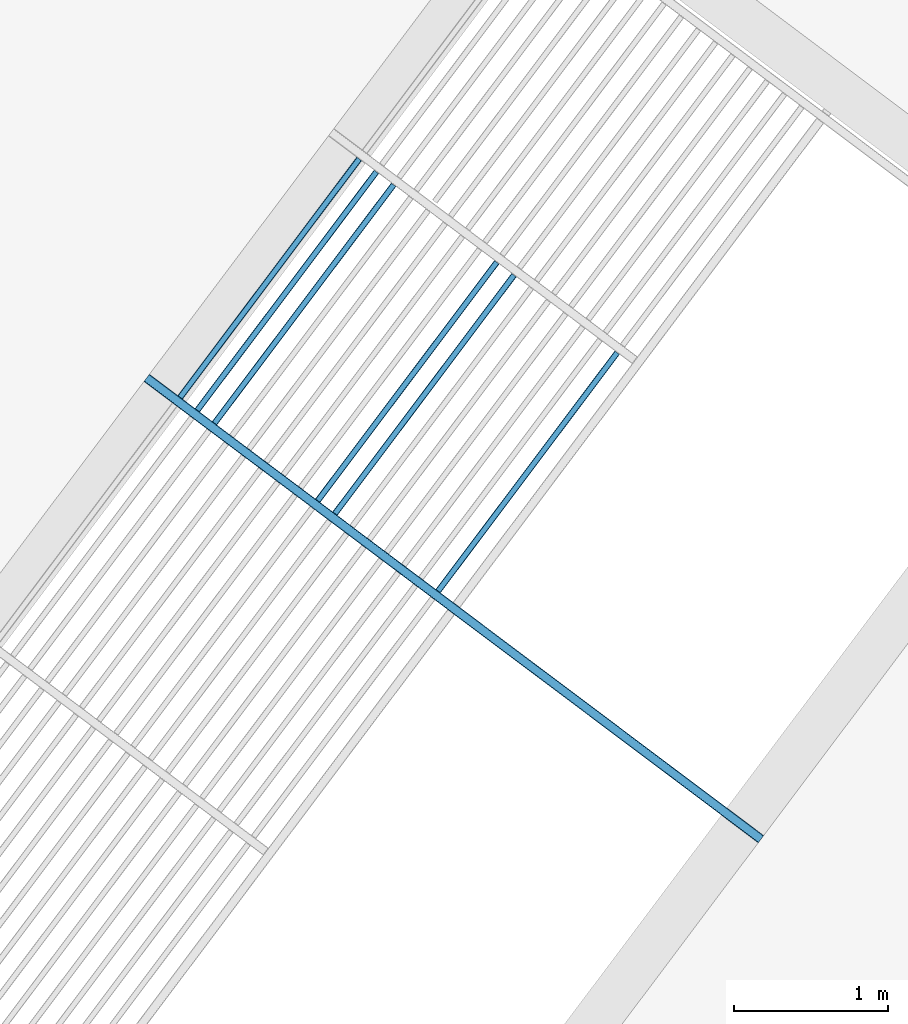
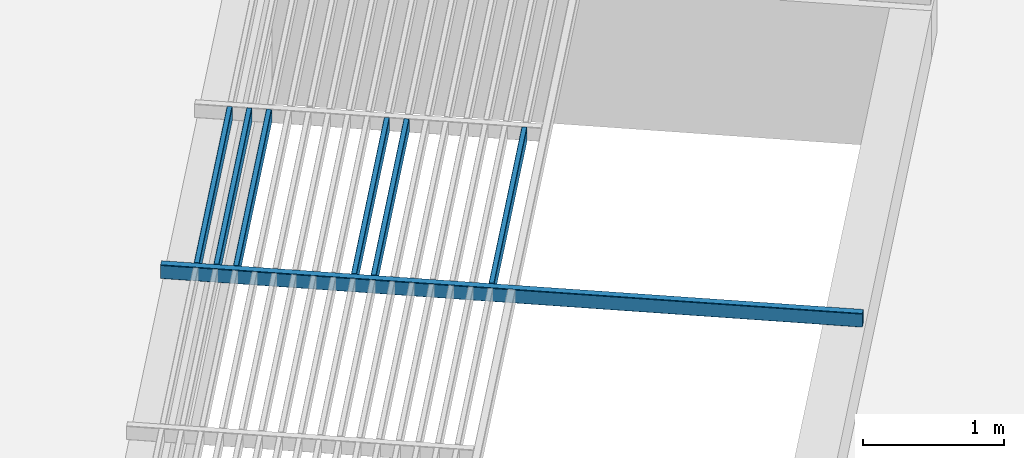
# One storey, part 33 of 95: 7 beams.
"""IFC2X3 building model written with IfcOpenShell, lengths in metres."""

import ifcopenshell
import ifcopenshell.guid

model = None  # the IFC model being written
_history = None  # IfcOwnerHistory: only IFC2X3 demands one
_inside = {}  # id of a spatial element -> (the spatial element, [elements in it])
_under = {}  # id of a project, library or spatial element -> (it, [spatial elements below it])
_declared = {}  # id of a project -> (the project, [libraries it declares])
_typed = {}  # id of a type object -> (the type object, [elements of that type])
_made_of = {}  # id of a material, layer set ... -> (it, [elements and type objects made of it])


def new_model(schema):
    """Start an empty IFC model of exactly this schema.

    Asked for "IFC4X3", IfcOpenShell would pick the latest addendum, in which some entities
    have other attributes; the version numbers below select the first issue.
    IFC2X3 requires an IfcOwnerHistory on every rooted entity: one is made here for all.
    """
    global model, _history
    if schema == "IFC4X3":
        model = ifcopenshell.file(schema_version=(4, 3, 0, 0))
    else:
        model = ifcopenshell.file(schema=schema)
    _inside.clear()
    _under.clear()
    _declared.clear()
    _typed.clear()
    _made_of.clear()
    _history = None
    if model.schema == "IFC2X3":
        org = make("IfcOrganization", Name="unknown")
        user = make(
            "IfcPersonAndOrganization",
            ThePerson=make("IfcPerson", FamilyName="unknown"),
            TheOrganization=org,
        )
        app = make(
            "IfcApplication",
            ApplicationDeveloper=org,
            Version="unknown",
            ApplicationFullName="unknown",
            ApplicationIdentifier="unknown",
        )
        _history = make(
            "IfcOwnerHistory",
            OwningUser=user,
            OwningApplication=app,
            ChangeAction="ADDED",
            CreationDate=0,
        )
    return model


def make(cls, **values):
    """One entity of the class cls with the attributes given. An attribute that is None is left unset."""
    return model.create_entity(
        cls, **{name: value for name, value in values.items() if value is not None}
    )


def entity(cls, *values):
    """Any entity or typed value of the class cls, its attributes in the order of the schema. None: left unset."""
    e = model.create_entity(cls)
    for i, value in enumerate(values):
        if value is not None:
            e[i] = value
    return e


def rooted(cls, **values):
    """An entity with a GlobalId (a new one), such as an element, a storey or a relation."""
    return make(cls, GlobalId=ifcopenshell.guid.new(), OwnerHistory=_history, **values)


def si_unit(unit_type, name, prefix=None):
    """IfcSIUnit, for example si_unit("LENGTHUNIT", "METRE", prefix="MILLI")."""
    return make("IfcSIUnit", UnitType=unit_type, Prefix=prefix, Name=name)


def converted_unit(unit_type, name, factor, base, dimensions=None, offset=None):
    """IfcConversionBasedUnit, such as the inch: factor (a typed value) times the base unit."""
    return make(
        "IfcConversionBasedUnit"
        if offset is None
        else "IfcConversionBasedUnitWithOffset",
        ConversionOffset=offset,
        Dimensions=None
        if dimensions is None
        else entity("IfcDimensionalExponents", *dimensions),
        UnitType=unit_type,
        Name=name,
        ConversionFactor=make(
            "IfcMeasureWithUnit", ValueComponent=factor, UnitComponent=base
        ),
    )


def derived_unit(unit_type, elements):
    """IfcDerivedUnit: a product of units, each with its exponent."""
    return make(
        "IfcDerivedUnit",
        Elements=[
            make("IfcDerivedUnitElement", Unit=unit, Exponent=power)
            for unit, power in elements
        ],
        UnitType=unit_type,
    )


def assignment(units):
    """IfcUnitAssignment: the units of a project."""
    return None if units is None else make("IfcUnitAssignment", Units=units)


def point(xyz):
    """IfcCartesianPoint."""
    return None if xyz is None else make("IfcCartesianPoint", Coordinates=xyz)


def direction(xyz):
    """IfcDirection."""
    return None if xyz is None else make("IfcDirection", DirectionRatios=xyz)


def frame(location, z_axis=None, x_axis=None):
    """IfcAxis2Placement3D, a coordinate frame: its origin and axes. An axis left out is left unset."""
    return make(
        "IfcAxis2Placement3D",
        Location=point(location),
        Axis=direction(z_axis),
        RefDirection=direction(x_axis),
    )


def frame_2d(location, x_axis=None):
    """IfcAxis2Placement2D, a coordinate frame in the plane: its origin and x axis."""
    return make(
        "IfcAxis2Placement2D", Location=point(location), RefDirection=direction(x_axis)
    )


def origin():
    """The frame at (0, 0, 0) with its axes left unset."""
    return frame((0.0, 0.0, 0.0))


def place(relative_to, where):
    """IfcLocalPlacement: puts the frame where relative to a parent placement (None: the world)."""
    return make(
        "IfcLocalPlacement", PlacementRelTo=relative_to, RelativePlacement=where
    )


def context(
    kind, dimensions, precision=None, world=None, true_north=None, identifier=None
):
    """IfcGeometricRepresentationContext, for example the 3D "Model" context."""
    return make(
        "IfcGeometricRepresentationContext",
        ContextIdentifier=identifier,
        ContextType=kind,
        CoordinateSpaceDimension=dimensions,
        Precision=precision,
        WorldCoordinateSystem=world,
        TrueNorth=true_north,
    )


def subcontext(parent, identifier, kind, view, scale=None):
    """IfcGeometricRepresentationSubContext, for example "Body" below "Model"."""
    return make(
        "IfcGeometricRepresentationSubContext",
        ContextIdentifier=identifier,
        ContextType=kind,
        ParentContext=parent,
        TargetScale=scale,
        TargetView=view,
    )


def project(units=None, contexts=None):
    """IfcProject with its units and contexts."""
    return rooted(
        "IfcProject",
        Name="project",
        RepresentationContexts=contexts,
        UnitsInContext=assignment(units),
    )


def spatial(cls, under=None, at=None, **own):
    """A site, building, storey or space (cls), placed at a placement, below another one or the project."""
    s = rooted(cls, ObjectPlacement=at, **own)
    if under is not None:
        _under.setdefault(under.id(), (under, []))[1].append(s)
    return s


def polyline(points):
    """IfcPolyline through the points."""
    return make("IfcPolyline", Points=[point(p) for p in points])


def circle_curve(where, radius):
    """IfcCircle in the frame where."""
    return make("IfcCircle", Position=where, Radius=radius)


def parameter(value):
    """IfcParameterValue: where a trimmed curve begins or ends, as a parameter of its basis curve."""
    return model.create_entity("IfcParameterValue", value)


def trimmed(basis, trim1, trim2, sense, master):
    """IfcTrimmedCurve: the piece of a basis curve between two trims."""
    return make(
        "IfcTrimmedCurve",
        BasisCurve=basis,
        Trim1=trim1,
        Trim2=trim2,
        SenseAgreement=sense,
        MasterRepresentation=master,
    )


def segment(curve, same_sense, transition):
    """IfcCompositeCurveSegment."""
    return make(
        "IfcCompositeCurveSegment",
        Transition=transition,
        SameSense=same_sense,
        ParentCurve=curve,
    )


def composite_curve(segments, self_intersect=None):
    """IfcCompositeCurve: segments joined end to end."""
    return make("IfcCompositeCurve", Segments=segments, SelfIntersect=self_intersect)


def outline(outer, holes=None, kind="AREA"):
    """IfcArbitraryClosedProfileDef: a profile drawn as a closed curve; with holes, ...WithVoids."""
    if holes is None:
        return make("IfcArbitraryClosedProfileDef", ProfileType=kind, OuterCurve=outer)
    return make(
        "IfcArbitraryProfileDefWithVoids",
        ProfileType=kind,
        OuterCurve=outer,
        InnerCurves=holes,
    )


def extrude(swept, where, along, depth):
    """IfcExtrudedAreaSolid: the profile swept, set in the frame where, extruded along a direction by depth."""
    return make(
        "IfcExtrudedAreaSolid",
        SweptArea=swept,
        Position=where,
        ExtrudedDirection=direction(along),
        Depth=depth,
    )


def shape(context_of_items, identifier, shape_type, items):
    """IfcShapeRepresentation: the items that make up one representation, for example the "Body"."""
    return make(
        "IfcShapeRepresentation",
        ContextOfItems=context_of_items,
        RepresentationIdentifier=identifier,
        RepresentationType=shape_type,
        Items=items,
    )


def material(Name=None, Category=None):
    """IfcMaterial."""
    return make("IfcMaterial", Name=Name, Category=Category)


def made_of(thing, what):
    """Note that an element or type object is made of a material, layer set ...; save() writes the relation."""
    if what is not None:
        _made_of.setdefault(what.id(), (what, []))[1].append(thing)
    return thing


def type_object(cls, material=None, **own):
    """A type object (cls), such as IfcWallType, which elements share."""
    return made_of(rooted(cls, **own), material)


def element(
    cls,
    number,
    at=None,
    inside=None,
    cuts=None,
    type_object=None,
    material=None,
    context=None,
    identifier="Body",
    shape_type=None,
    held_by="IfcProductDefinitionShape",
    body=None,
    shapes=None,
    **own,
):
    """One element of the class cls, such as IfcWall. Its Tag is "e" and its number.

    at: its placement. inside: the storey or other place that contains it. cuts: it is an
    opening in that element (IfcRelVoidsElement). A single representation is given by context,
    identifier, shape_type and body (its items); several are given by shapes. held_by: the class
    of the entity that holds the representations. save() writes the other relations.
    """
    e = rooted(cls, Tag="e%d" % number, ObjectPlacement=at, **own)
    if body is not None:
        shapes = [shape(context, identifier, shape_type, body)]
    if shapes is not None:
        e.Representation = make(held_by, Representations=shapes)
    if inside is not None:
        _inside.setdefault(inside.id(), (inside, []))[1].append(e)
    if cuts is not None:
        rooted(
            "IfcRelVoidsElement", RelatingBuildingElement=cuts, RelatedOpeningElement=e
        )
    if type_object is not None:
        _typed.setdefault(type_object.id(), (type_object, []))[1].append(e)
    return made_of(e, material)


def aggregate(whole, parts):
    """IfcRelAggregates: a whole, such as a stair, and the parts it consists of."""
    return rooted("IfcRelAggregates", RelatingObject=whole, RelatedObjects=parts)


def save(model, path):
    """Write the relations noted so far, then the file.

    IfcRelAggregates (storeys below a building ...), IfcRelContainedInSpatialStructure (elements
    in a storey), IfcRelDefinesByType, IfcRelAssociatesMaterial and IfcRelDeclares: one each for
    every whole, place, type object, material and project.
    """
    for whole, parts in _under.values():
        aggregate(whole, parts)
    for where, things in _inside.values():
        rooted(
            "IfcRelContainedInSpatialStructure",
            RelatedElements=things,
            RelatingStructure=where,
        )
    for kind, things in _typed.values():
        rooted("IfcRelDefinesByType", RelatedObjects=things, RelatingType=kind)
    for what, things in _made_of.values():
        rooted("IfcRelAssociatesMaterial", RelatedObjects=things, RelatingMaterial=what)
    for by, libraries in _declared.values():
        rooted("IfcRelDeclares", RelatingContext=by, RelatedDefinitions=libraries)
    model.write(path)


model = new_model("IFC2X3")

# Units and contexts
model_context = context("Model", 3, precision=1e-05, world=origin(), true_north=direction((6.123031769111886e-17, 1.0)))
body_context = subcontext(model_context, "Body", "Model", "MODEL_VIEW")
ifc_project = project(units=[si_unit("LENGTHUNIT", "METRE"), si_unit("AREAUNIT", "SQUARE_METRE"), si_unit("VOLUMEUNIT", "CUBIC_METRE"), converted_unit("PLANEANGLEUNIT", "DEGREE", entity("IfcRatioMeasure", 0.017453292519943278), si_unit("PLANEANGLEUNIT", "RADIAN"), dimensions=[0, 0, 0, 0, 0, 0, 0]), si_unit("MASSUNIT", "GRAM", prefix="KILO"), derived_unit("MASSDENSITYUNIT", [(si_unit("MASSUNIT", "GRAM", prefix="KILO"), 1), (si_unit("LENGTHUNIT", "METRE"), -3)]), derived_unit("IONCONCENTRATIONUNIT", [(si_unit("MASSUNIT", "GRAM", prefix="KILO"), 1), (si_unit("LENGTHUNIT", "METRE"), -3)]), derived_unit("MOMENTOFINERTIAUNIT", [(si_unit("LENGTHUNIT", "METRE"), 4)]), si_unit("TIMEUNIT", "SECOND"), si_unit("FREQUENCYUNIT", "HERTZ"), si_unit("THERMODYNAMICTEMPERATUREUNIT", "DEGREE_CELSIUS"), derived_unit("THERMALTRANSMITTANCEUNIT", [(si_unit("MASSUNIT", "GRAM", prefix="KILO"), 1), (si_unit("THERMODYNAMICTEMPERATUREUNIT", "KELVIN"), -1), (si_unit("TIMEUNIT", "SECOND"), -3)]), derived_unit("THERMALCONDUCTANCEUNIT", [(si_unit("MASSUNIT", "GRAM", prefix="KILO"), 1), (si_unit("THERMODYNAMICTEMPERATUREUNIT", "KELVIN"), -1), (si_unit("TIMEUNIT", "SECOND"), -3), (si_unit("LENGTHUNIT", "METRE"), 1)]), derived_unit("VOLUMETRICFLOWRATEUNIT", [(si_unit("LENGTHUNIT", "METRE"), 3), (si_unit("TIMEUNIT", "SECOND"), -1)]), derived_unit("MASSFLOWRATEUNIT", [(si_unit("MASSUNIT", "GRAM", prefix="KILO"), 1), (si_unit("TIMEUNIT", "SECOND"), -1)]), derived_unit("ROTATIONALFREQUENCYUNIT", [(si_unit("TIMEUNIT", "SECOND"), -1)]), si_unit("ELECTRICCURRENTUNIT", "AMPERE"), si_unit("ELECTRICVOLTAGEUNIT", "VOLT"), si_unit("POWERUNIT", "WATT"), si_unit("FORCEUNIT", "NEWTON", prefix="KILO"), si_unit("ILLUMINANCEUNIT", "LUX"), si_unit("LUMINOUSFLUXUNIT", "LUMEN"), si_unit("LUMINOUSINTENSITYUNIT", "CANDELA"), derived_unit("USERDEFINED", [(si_unit("MASSUNIT", "GRAM", prefix="KILO"), -1), (si_unit("LENGTHUNIT", "METRE"), -2), (si_unit("TIMEUNIT", "SECOND"), 3), (si_unit("LUMINOUSFLUXUNIT", "LUMEN"), 1)]), derived_unit("USERDEFINED", [(si_unit("MASSUNIT", "GRAM", prefix="KILO"), 1), (si_unit("TIMEUNIT", "SECOND"), -3), (si_unit("LENGTHUNIT", "METRE"), 3), (si_unit("ELECTRICCURRENTUNIT", "AMPERE"), -2)]), derived_unit("SOUNDPOWERUNIT", [(si_unit("MASSUNIT", "GRAM", prefix="KILO"), 1), (si_unit("TIMEUNIT", "SECOND"), -3), (si_unit("LENGTHUNIT", "METRE"), 2)]), derived_unit("SOUNDPRESSUREUNIT", [(si_unit("MASSUNIT", "GRAM", prefix="KILO"), 1), (si_unit("LENGTHUNIT", "METRE"), -1), (si_unit("TIMEUNIT", "SECOND"), -2)]), derived_unit("LINEARVELOCITYUNIT", [(si_unit("LENGTHUNIT", "METRE"), 1), (si_unit("TIMEUNIT", "SECOND"), -1)]), si_unit("PRESSUREUNIT", "PASCAL"), derived_unit("USERDEFINED", [(si_unit("MASSUNIT", "GRAM", prefix="KILO"), 1), (si_unit("LENGTHUNIT", "METRE"), -2), (si_unit("TIMEUNIT", "SECOND"), -2)]), derived_unit("LINEARFORCEUNIT", [(si_unit("MASSUNIT", "GRAM", prefix="KILO"), 1), (si_unit("TIMEUNIT", "SECOND"), -2)]), derived_unit("PLANARFORCEUNIT", [(si_unit("MASSUNIT", "GRAM", prefix="KILO"), 1), (si_unit("LENGTHUNIT", "METRE"), -1), (si_unit("TIMEUNIT", "SECOND"), -2)]), derived_unit("SPECIFICHEATCAPACITYUNIT", [(si_unit("THERMODYNAMICTEMPERATUREUNIT", "KELVIN"), -1), (si_unit("LENGTHUNIT", "METRE"), 2), (si_unit("TIMEUNIT", "SECOND"), -2)]), derived_unit("HEATINGVALUEUNIT", [(si_unit("LENGTHUNIT", "METRE"), 2), (si_unit("TIMEUNIT", "SECOND"), -2)]), derived_unit("VAPORPERMEABILITYUNIT", [(si_unit("LENGTHUNIT", "METRE"), -1), (si_unit("TIMEUNIT", "SECOND"), 1)]), derived_unit("DYNAMICVISCOSITYUNIT", [(si_unit("MASSUNIT", "GRAM", prefix="KILO"), 1), (si_unit("TIMEUNIT", "SECOND"), -1), (si_unit("LENGTHUNIT", "METRE"), -1)]), derived_unit("THERMALEXPANSIONCOEFFICIENTUNIT", [(si_unit("THERMODYNAMICTEMPERATUREUNIT", "KELVIN"), -1)]), derived_unit("MODULUSOFELASTICITYUNIT", [(si_unit("MASSUNIT", "GRAM", prefix="KILO"), 1), (si_unit("LENGTHUNIT", "METRE"), -1), (si_unit("TIMEUNIT", "SECOND"), -2)]), derived_unit("ISOTHERMALMOISTURECAPACITYUNIT", [(si_unit("LENGTHUNIT", "METRE"), 3), (si_unit("MASSUNIT", "GRAM", prefix="KILO"), -1)]), derived_unit("MOISTUREDIFFUSIVITYUNIT", [(si_unit("TIMEUNIT", "SECOND"), -1), (si_unit("LENGTHUNIT", "METRE"), 2)])], contexts=[model_context])

# Site, building, storey
site_placement = place(None, origin())
site = spatial("IfcSite", under=ifc_project, at=site_placement, Name="Default", CompositionType="ELEMENT")
building_placement = place(site_placement, frame((0.0, 0.0, 235.0), z_axis=(0.0, 0.0, 1.0), x_axis=(-0.7996477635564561, 0.6004693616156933, 0.0)))
building = spatial("IfcBuilding", under=site, at=building_placement, CompositionType="ELEMENT")
storey_placement = place(building_placement, frame((0.0, 0.0, 3.400000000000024)))
storey = spatial("IfcBuildingStorey", under=building, at=storey_placement, Name="PC- Coberta STR", CompositionType="ELEMENT", Elevation=3.400000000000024)

# Beams
ifc_material = material(Name="_Acer- STR")
beam_type_1 = type_object("IfcBeamType", Name="STR- V- Acer- RHS- Rectangular- T1:120x60RHS", PredefinedType="NOTDEFINED")
beam_1_placement = place(storey_placement, frame((23.645147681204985, -32.44678703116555, 0.49840472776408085), z_axis=(0.0, 0.0, 1.0), x_axis=(-1.0, 0.0, 0.0)))
element("IfcBeam", 1, at=beam_1_placement, inside=storey, type_object=beam_type_1, material=ifc_material, Name="STR- V- Acer- RHS- Rectangular- T1:120x60RHS", ObjectType="STR- V- Acer- RHS- Rectangular- T1:120x60RHS", context=body_context, shape_type="SweptSolid", body=[
    extrude(outline(composite_curve([segment(trimmed(circle_curve(frame_2d((-0.021999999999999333, -0.05200000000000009), x_axis=(1.0, 0.0)), 0.008), [parameter(180.0000000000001)], [parameter(269.99999999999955)], True, "PARAMETER"), True, "CONTINUOUS"), segment(polyline([(-0.022000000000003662, -0.05999999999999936), (0.021999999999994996, -0.05999999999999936)]), True, "CONTINUOUS"), segment(trimmed(circle_curve(frame_2d((0.021999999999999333, -0.05200000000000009), x_axis=(1.0, 0.0)), 0.008), [parameter(269.99999999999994)], [parameter(5.088887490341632e-14)], True, "PARAMETER"), True, "CONTINUOUS"), segment(polyline([(0.029999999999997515, -0.05199999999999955), (0.029999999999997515, 0.05200000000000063)]), True, "CONTINUOUS"), segment(trimmed(circle_curve(frame_2d((0.021999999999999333, 0.05200000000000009), x_axis=(1.0, 0.0)), 0.008), [parameter(359.99999999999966)], [parameter(89.99999999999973)], True, "PARAMETER"), True, "CONTINUOUS"), segment(polyline([(0.021999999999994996, 0.060000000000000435), (-0.022000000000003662, 0.060000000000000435)]), True, "CONTINUOUS"), segment(trimmed(circle_curve(frame_2d((-0.021999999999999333, 0.05200000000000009), x_axis=(1.0, 0.0)), 0.008), [parameter(90.00000000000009)], [parameter(180.00000000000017)], True, "PARAMETER"), True, "CONTINUOUS"), segment(polyline([(-0.030000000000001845, 0.05200000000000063), (-0.030000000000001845, -0.05199999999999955)]), True, "CONTINUOUS")], self_intersect=False), holes=[composite_curve([segment(polyline([(0.021999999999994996, -0.05600000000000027), (-0.022000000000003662, -0.05600000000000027)]), True, "CONTINUOUS"), segment(trimmed(circle_curve(frame_2d((-0.021999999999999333, -0.05200000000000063), x_axis=(1.0, 0.0)), 0.004), [parameter(179.99999999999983)], [parameter(269.9999999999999)], True, "PARAMETER"), False, "CONTINUOUS"), segment(polyline([(-0.026000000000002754, -0.05200000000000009), (-0.026000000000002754, 0.05199999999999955)]), True, "CONTINUOUS"), segment(trimmed(circle_curve(frame_2d((-0.021999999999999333, 0.051999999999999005), x_axis=(1.0, 0.0)), 0.004), [parameter(90.00000000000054)], [parameter(180.00000000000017)], True, "PARAMETER"), False, "CONTINUOUS"), segment(polyline([(-0.022000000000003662, 0.05599999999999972), (0.021999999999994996, 0.05599999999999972)]), True, "CONTINUOUS"), segment(trimmed(circle_curve(frame_2d((0.021999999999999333, 0.051999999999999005), x_axis=(1.0, 0.0)), 0.004), [parameter(0.0)], [parameter(90.00000000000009)], True, "PARAMETER"), False, "CONTINUOUS"), segment(polyline([(0.02599999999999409, 0.05199999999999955), (0.02599999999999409, -0.05200000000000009)]), True, "CONTINUOUS"), segment(trimmed(circle_curve(frame_2d((0.021999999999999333, -0.05200000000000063), x_axis=(1.0, 0.0)), 0.004), [parameter(270.00000000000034)], [parameter(3.5622212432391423e-13)], True, "PARAMETER"), False, "CONTINUOUS")], self_intersect=False)]), frame((-5.0, -0.0315952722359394, 0.061595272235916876), z_axis=(1.0, 0.0, 0.0), x_axis=(0.0, -1.0, 0.0)), (0.0, 0.0, 1.0), 5.000000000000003),
])
beam_type_2 = type_object("IfcBeamType", Name="STR- V- Acer- RHS- Rectangular- T1:120x40RHS -", PredefinedType="NOTDEFINED")
beam_2_placement = place(storey_placement, frame((28.373552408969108, -34.38519175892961, 0.49840472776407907), z_axis=(0.0, 0.0, 1.0), x_axis=(0.0, -1.0, 0.0)))
element("IfcBeam", 2, at=beam_2_placement, inside=storey, type_object=beam_type_2, material=ifc_material, Name="STR- V- Acer- RHS- Rectangular- T1:120x40RHS -", ObjectType="STR- V- Acer- RHS- Rectangular- T1:120x40RHS -", context=body_context, shape_type="SweptSolid", body=[
    extrude(outline(composite_curve([segment(trimmed(circle_curve(frame_2d((-0.013999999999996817, -0.05400000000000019), x_axis=(1.0, 0.0)), 0.006), [parameter(180.0000000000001)], [parameter(269.99999999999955)], True, "PARAMETER"), True, "CONTINUOUS"), segment(polyline([(-0.014000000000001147, -0.06000000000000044), (0.01400000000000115, -0.06000000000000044)]), True, "CONTINUOUS"), segment(trimmed(circle_curve(frame_2d((0.01400000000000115, -0.05400000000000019), x_axis=(1.0, 0.0)), 0.006), [parameter(269.99999999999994)], [parameter(1.0177774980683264e-13)], True, "PARAMETER"), True, "CONTINUOUS"), segment(polyline([(0.019999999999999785, -0.05400000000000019), (0.019999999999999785, 0.05399999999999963)]), True, "CONTINUOUS"), segment(trimmed(circle_curve(frame_2d((0.01400000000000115, 0.05399999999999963), x_axis=(1.0, 0.0)), 0.006), [parameter(359.9999999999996)], [parameter(89.99999999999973)], True, "PARAMETER"), True, "CONTINUOUS"), segment(polyline([(0.01400000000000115, 0.05999999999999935), (-0.014000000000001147, 0.05999999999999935)]), True, "CONTINUOUS"), segment(trimmed(circle_curve(frame_2d((-0.013999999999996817, 0.05399999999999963), x_axis=(1.0, 0.0)), 0.006), [parameter(90.00000000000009)], [parameter(180.00000000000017)], True, "PARAMETER"), True, "CONTINUOUS"), segment(polyline([(-0.019999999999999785, 0.05399999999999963), (-0.019999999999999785, -0.05400000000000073)]), True, "CONTINUOUS")], self_intersect=False), holes=[composite_curve([segment(polyline([(0.01400000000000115, -0.05700000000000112), (-0.014000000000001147, -0.05700000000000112)]), True, "CONTINUOUS"), segment(trimmed(circle_curve(frame_2d((-0.013999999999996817, -0.05400000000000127), x_axis=(1.0, 0.0)), 0.003), [parameter(179.99999999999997)], [parameter(269.9999999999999)], True, "PARAMETER"), False, "CONTINUOUS"), segment(polyline([(-0.01700000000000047, -0.05400000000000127), (-0.01700000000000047, 0.05399999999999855)]), True, "CONTINUOUS"), segment(trimmed(circle_curve(frame_2d((-0.013999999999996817, 0.05399999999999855), x_axis=(1.0, 0.0)), 0.003), [parameter(90.00000000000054)], [parameter(180.0000000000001)], True, "PARAMETER"), False, "CONTINUOUS"), segment(polyline([(-0.014000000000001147, 0.05699999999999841), (0.01400000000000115, 0.05699999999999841)]), True, "CONTINUOUS"), segment(trimmed(circle_curve(frame_2d((0.01400000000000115, 0.05399999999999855), x_axis=(1.0, 0.0)), 0.003), [parameter(0.0)], [parameter(90.00000000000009)], True, "PARAMETER"), False, "CONTINUOUS"), segment(polyline([(0.017000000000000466, 0.05399999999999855), (0.017000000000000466, -0.05400000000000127)]), True, "CONTINUOUS"), segment(trimmed(circle_curve(frame_2d((0.01400000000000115, -0.05400000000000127), x_axis=(1.0, 0.0)), 0.003), [parameter(270.00000000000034)], [parameter(3.053332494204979e-13)], True, "PARAMETER"), False, "CONTINUOUS")], self_intersect=False)]), frame((-1.9399999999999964, 0.021595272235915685, 0.06159527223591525), z_axis=(1.0, 0.0, 0.0), x_axis=(0.0, -1.0, 0.0)), (0.0, 0.0, 1.0), 1.9399999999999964),
])
beam_3_placement = place(storey_placement, frame((28.233552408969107, -34.38519175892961, 0.49840472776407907), z_axis=(0.0, 0.0, 1.0), x_axis=(0.0, -1.0, 0.0)))
element("IfcBeam", 3, at=beam_3_placement, inside=storey, type_object=beam_type_2, material=ifc_material, Name="STR- V- Acer- RHS- Rectangular- T1:120x40RHS -", ObjectType="STR- V- Acer- RHS- Rectangular- T1:120x40RHS -", context=body_context, shape_type="SweptSolid", body=[
    extrude(outline(composite_curve([segment(trimmed(circle_curve(frame_2d((-0.013999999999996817, -0.05400000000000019), x_axis=(1.0, 0.0)), 0.006), [parameter(180.0000000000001)], [parameter(269.99999999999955)], True, "PARAMETER"), True, "CONTINUOUS"), segment(polyline([(-0.014000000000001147, -0.06000000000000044), (0.01400000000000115, -0.06000000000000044)]), True, "CONTINUOUS"), segment(trimmed(circle_curve(frame_2d((0.01400000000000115, -0.05400000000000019), x_axis=(1.0, 0.0)), 0.006), [parameter(269.99999999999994)], [parameter(1.0177774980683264e-13)], True, "PARAMETER"), True, "CONTINUOUS"), segment(polyline([(0.019999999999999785, -0.05400000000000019), (0.019999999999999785, 0.05399999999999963)]), True, "CONTINUOUS"), segment(trimmed(circle_curve(frame_2d((0.01400000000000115, 0.05399999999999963), x_axis=(1.0, 0.0)), 0.006), [parameter(359.9999999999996)], [parameter(89.99999999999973)], True, "PARAMETER"), True, "CONTINUOUS"), segment(polyline([(0.01400000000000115, 0.05999999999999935), (-0.014000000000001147, 0.05999999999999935)]), True, "CONTINUOUS"), segment(trimmed(circle_curve(frame_2d((-0.013999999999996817, 0.05399999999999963), x_axis=(1.0, 0.0)), 0.006), [parameter(90.00000000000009)], [parameter(180.00000000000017)], True, "PARAMETER"), True, "CONTINUOUS"), segment(polyline([(-0.019999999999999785, 0.05399999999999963), (-0.019999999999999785, -0.05400000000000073)]), True, "CONTINUOUS")], self_intersect=False), holes=[composite_curve([segment(polyline([(0.01400000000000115, -0.05700000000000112), (-0.014000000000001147, -0.05700000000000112)]), True, "CONTINUOUS"), segment(trimmed(circle_curve(frame_2d((-0.013999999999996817, -0.05400000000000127), x_axis=(1.0, 0.0)), 0.003), [parameter(179.99999999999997)], [parameter(269.9999999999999)], True, "PARAMETER"), False, "CONTINUOUS"), segment(polyline([(-0.01700000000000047, -0.05400000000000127), (-0.01700000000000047, 0.05399999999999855)]), True, "CONTINUOUS"), segment(trimmed(circle_curve(frame_2d((-0.013999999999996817, 0.05399999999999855), x_axis=(1.0, 0.0)), 0.003), [parameter(90.00000000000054)], [parameter(180.0000000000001)], True, "PARAMETER"), False, "CONTINUOUS"), segment(polyline([(-0.014000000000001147, 0.05699999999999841), (0.01400000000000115, 0.05699999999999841)]), True, "CONTINUOUS"), segment(trimmed(circle_curve(frame_2d((0.01400000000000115, 0.05399999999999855), x_axis=(1.0, 0.0)), 0.003), [parameter(0.0)], [parameter(90.00000000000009)], True, "PARAMETER"), False, "CONTINUOUS"), segment(polyline([(0.017000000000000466, 0.05399999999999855), (0.017000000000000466, -0.05400000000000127)]), True, "CONTINUOUS"), segment(trimmed(circle_curve(frame_2d((0.01400000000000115, -0.05400000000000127), x_axis=(1.0, 0.0)), 0.003), [parameter(270.00000000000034)], [parameter(3.053332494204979e-13)], True, "PARAMETER"), False, "CONTINUOUS")], self_intersect=False)]), frame((-1.9399999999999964, 0.021595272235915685, 0.06159527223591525), z_axis=(1.0, 0.0, 0.0), x_axis=(0.0, -1.0, 0.0)), (0.0, 0.0, 1.0), 1.9399999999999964),
])
beam_4_placement = place(storey_placement, frame((28.09355240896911, -34.38519175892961, 0.49840472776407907), z_axis=(0.0, 0.0, 1.0), x_axis=(0.0, -1.0, 0.0)))
element("IfcBeam", 4, at=beam_4_placement, inside=storey, type_object=beam_type_2, material=ifc_material, Name="STR- V- Acer- RHS- Rectangular- T1:120x40RHS -", ObjectType="STR- V- Acer- RHS- Rectangular- T1:120x40RHS -", context=body_context, shape_type="SweptSolid", body=[
    extrude(outline(composite_curve([segment(trimmed(circle_curve(frame_2d((-0.01400000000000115, -0.05400000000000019), x_axis=(1.0, 0.0)), 0.006), [parameter(180.0000000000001)], [parameter(269.99999999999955)], True, "PARAMETER"), True, "CONTINUOUS"), segment(polyline([(-0.01400000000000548, -0.06000000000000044), (0.013999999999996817, -0.06000000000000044)]), True, "CONTINUOUS"), segment(trimmed(circle_curve(frame_2d((0.013999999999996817, -0.05400000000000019), x_axis=(1.0, 0.0)), 0.006), [parameter(269.99999999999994)], [parameter(1.0177774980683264e-13)], True, "PARAMETER"), True, "CONTINUOUS"), segment(polyline([(0.019999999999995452, -0.05400000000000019), (0.019999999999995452, 0.05399999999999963)]), True, "CONTINUOUS"), segment(trimmed(circle_curve(frame_2d((0.013999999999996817, 0.05399999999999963), x_axis=(1.0, 0.0)), 0.006), [parameter(359.9999999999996)], [parameter(89.99999999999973)], True, "PARAMETER"), True, "CONTINUOUS"), segment(polyline([(0.013999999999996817, 0.05999999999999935), (-0.01400000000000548, 0.05999999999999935)]), True, "CONTINUOUS"), segment(trimmed(circle_curve(frame_2d((-0.01400000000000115, 0.05399999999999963), x_axis=(1.0, 0.0)), 0.006), [parameter(90.00000000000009)], [parameter(180.00000000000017)], True, "PARAMETER"), True, "CONTINUOUS"), segment(polyline([(-0.02000000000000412, 0.05399999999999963), (-0.02000000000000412, -0.05400000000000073)]), True, "CONTINUOUS")], self_intersect=False), holes=[composite_curve([segment(polyline([(0.013999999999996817, -0.05700000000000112), (-0.01400000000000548, -0.05700000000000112)]), True, "CONTINUOUS"), segment(trimmed(circle_curve(frame_2d((-0.01400000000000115, -0.05400000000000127), x_axis=(1.0, 0.0)), 0.003), [parameter(179.99999999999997)], [parameter(269.9999999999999)], True, "PARAMETER"), False, "CONTINUOUS"), segment(polyline([(-0.017000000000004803, -0.05400000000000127), (-0.017000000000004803, 0.05399999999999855)]), True, "CONTINUOUS"), segment(trimmed(circle_curve(frame_2d((-0.01400000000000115, 0.05399999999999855), x_axis=(1.0, 0.0)), 0.003), [parameter(90.00000000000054)], [parameter(180.0000000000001)], True, "PARAMETER"), False, "CONTINUOUS"), segment(polyline([(-0.01400000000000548, 0.05699999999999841), (0.013999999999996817, 0.05699999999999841)]), True, "CONTINUOUS"), segment(trimmed(circle_curve(frame_2d((0.013999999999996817, 0.05399999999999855), x_axis=(1.0, 0.0)), 0.003), [parameter(0.0)], [parameter(90.00000000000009)], True, "PARAMETER"), False, "CONTINUOUS"), segment(polyline([(0.016999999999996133, 0.05399999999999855), (0.016999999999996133, -0.05400000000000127)]), True, "CONTINUOUS"), segment(trimmed(circle_curve(frame_2d((0.013999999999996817, -0.05400000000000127), x_axis=(1.0, 0.0)), 0.003), [parameter(270.00000000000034)], [parameter(3.053332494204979e-13)], True, "PARAMETER"), False, "CONTINUOUS")], self_intersect=False)]), frame((-1.9399999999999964, 0.02159527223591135, 0.06159527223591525), z_axis=(1.0, 0.0, 0.0), x_axis=(0.0, -1.0, 0.0)), (0.0, 0.0, 1.0), 1.9399999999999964),
])
beam_5_placement = place(storey_placement, frame((27.25355240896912, -34.38519175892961, 0.49840472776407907), z_axis=(0.0, 0.0, 1.0), x_axis=(0.0, -1.0, 0.0)))
element("IfcBeam", 5, at=beam_5_placement, inside=storey, type_object=beam_type_2, material=ifc_material, Name="STR- V- Acer- RHS- Rectangular- T1:120x40RHS -", ObjectType="STR- V- Acer- RHS- Rectangular- T1:120x40RHS -", context=body_context, shape_type="SweptSolid", body=[
    extrude(outline(composite_curve([segment(trimmed(circle_curve(frame_2d((-0.013999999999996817, -0.05400000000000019), x_axis=(1.0, 0.0)), 0.006), [parameter(180.0000000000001)], [parameter(269.99999999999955)], True, "PARAMETER"), True, "CONTINUOUS"), segment(polyline([(-0.014000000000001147, -0.06000000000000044), (0.01400000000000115, -0.06000000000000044)]), True, "CONTINUOUS"), segment(trimmed(circle_curve(frame_2d((0.01400000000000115, -0.05400000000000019), x_axis=(1.0, 0.0)), 0.006), [parameter(269.99999999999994)], [parameter(1.0177774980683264e-13)], True, "PARAMETER"), True, "CONTINUOUS"), segment(polyline([(0.019999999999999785, -0.05400000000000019), (0.019999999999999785, 0.05399999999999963)]), True, "CONTINUOUS"), segment(trimmed(circle_curve(frame_2d((0.01400000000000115, 0.05399999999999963), x_axis=(1.0, 0.0)), 0.006), [parameter(359.9999999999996)], [parameter(89.99999999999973)], True, "PARAMETER"), True, "CONTINUOUS"), segment(polyline([(0.01400000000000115, 0.05999999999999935), (-0.014000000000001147, 0.05999999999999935)]), True, "CONTINUOUS"), segment(trimmed(circle_curve(frame_2d((-0.013999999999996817, 0.05399999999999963), x_axis=(1.0, 0.0)), 0.006), [parameter(90.00000000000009)], [parameter(180.00000000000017)], True, "PARAMETER"), True, "CONTINUOUS"), segment(polyline([(-0.019999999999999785, 0.05399999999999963), (-0.019999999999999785, -0.05400000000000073)]), True, "CONTINUOUS")], self_intersect=False), holes=[composite_curve([segment(polyline([(0.01400000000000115, -0.05700000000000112), (-0.014000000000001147, -0.05700000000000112)]), True, "CONTINUOUS"), segment(trimmed(circle_curve(frame_2d((-0.013999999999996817, -0.05400000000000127), x_axis=(1.0, 0.0)), 0.003), [parameter(179.99999999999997)], [parameter(269.9999999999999)], True, "PARAMETER"), False, "CONTINUOUS"), segment(polyline([(-0.01700000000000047, -0.05400000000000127), (-0.01700000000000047, 0.05399999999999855)]), True, "CONTINUOUS"), segment(trimmed(circle_curve(frame_2d((-0.013999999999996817, 0.05399999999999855), x_axis=(1.0, 0.0)), 0.003), [parameter(90.00000000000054)], [parameter(180.0000000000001)], True, "PARAMETER"), False, "CONTINUOUS"), segment(polyline([(-0.014000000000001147, 0.05699999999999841), (0.01400000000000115, 0.05699999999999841)]), True, "CONTINUOUS"), segment(trimmed(circle_curve(frame_2d((0.01400000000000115, 0.05399999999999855), x_axis=(1.0, 0.0)), 0.003), [parameter(0.0)], [parameter(90.00000000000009)], True, "PARAMETER"), False, "CONTINUOUS"), segment(polyline([(0.017000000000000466, 0.05399999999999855), (0.017000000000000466, -0.05400000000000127)]), True, "CONTINUOUS"), segment(trimmed(circle_curve(frame_2d((0.01400000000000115, -0.05400000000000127), x_axis=(1.0, 0.0)), 0.003), [parameter(270.00000000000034)], [parameter(3.053332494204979e-13)], True, "PARAMETER"), False, "CONTINUOUS")], self_intersect=False)]), frame((-1.9399999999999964, 0.021595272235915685, 0.06159527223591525), z_axis=(1.0, 0.0, 0.0), x_axis=(0.0, -1.0, 0.0)), (0.0, 0.0, 1.0), 1.9399999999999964),
])
beam_6_placement = place(storey_placement, frame((27.11355240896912, -34.38519175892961, 0.49840472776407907), z_axis=(0.0, 0.0, 1.0), x_axis=(0.0, -1.0, 0.0)))
element("IfcBeam", 6, at=beam_6_placement, inside=storey, type_object=beam_type_2, material=ifc_material, Name="STR- V- Acer- RHS- Rectangular- T1:120x40RHS -", ObjectType="STR- V- Acer- RHS- Rectangular- T1:120x40RHS -", context=body_context, shape_type="SweptSolid", body=[
    extrude(outline(composite_curve([segment(trimmed(circle_curve(frame_2d((-0.013999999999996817, -0.05400000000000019), x_axis=(1.0, 0.0)), 0.006), [parameter(180.0000000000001)], [parameter(269.99999999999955)], True, "PARAMETER"), True, "CONTINUOUS"), segment(polyline([(-0.014000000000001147, -0.06000000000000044), (0.01400000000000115, -0.06000000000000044)]), True, "CONTINUOUS"), segment(trimmed(circle_curve(frame_2d((0.01400000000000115, -0.05400000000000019), x_axis=(1.0, 0.0)), 0.006), [parameter(269.99999999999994)], [parameter(1.0177774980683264e-13)], True, "PARAMETER"), True, "CONTINUOUS"), segment(polyline([(0.019999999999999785, -0.05400000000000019), (0.019999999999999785, 0.05399999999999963)]), True, "CONTINUOUS"), segment(trimmed(circle_curve(frame_2d((0.01400000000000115, 0.05399999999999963), x_axis=(1.0, 0.0)), 0.006), [parameter(359.9999999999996)], [parameter(89.99999999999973)], True, "PARAMETER"), True, "CONTINUOUS"), segment(polyline([(0.01400000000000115, 0.05999999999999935), (-0.014000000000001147, 0.05999999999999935)]), True, "CONTINUOUS"), segment(trimmed(circle_curve(frame_2d((-0.013999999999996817, 0.05399999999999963), x_axis=(1.0, 0.0)), 0.006), [parameter(90.00000000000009)], [parameter(180.00000000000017)], True, "PARAMETER"), True, "CONTINUOUS"), segment(polyline([(-0.019999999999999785, 0.05399999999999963), (-0.019999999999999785, -0.05400000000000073)]), True, "CONTINUOUS")], self_intersect=False), holes=[composite_curve([segment(polyline([(0.01400000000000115, -0.05700000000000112), (-0.014000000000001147, -0.05700000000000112)]), True, "CONTINUOUS"), segment(trimmed(circle_curve(frame_2d((-0.013999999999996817, -0.05400000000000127), x_axis=(1.0, 0.0)), 0.003), [parameter(179.99999999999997)], [parameter(269.9999999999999)], True, "PARAMETER"), False, "CONTINUOUS"), segment(polyline([(-0.01700000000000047, -0.05400000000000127), (-0.01700000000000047, 0.05399999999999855)]), True, "CONTINUOUS"), segment(trimmed(circle_curve(frame_2d((-0.013999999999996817, 0.05399999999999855), x_axis=(1.0, 0.0)), 0.003), [parameter(90.00000000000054)], [parameter(180.0000000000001)], True, "PARAMETER"), False, "CONTINUOUS"), segment(polyline([(-0.014000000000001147, 0.05699999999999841), (0.01400000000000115, 0.05699999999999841)]), True, "CONTINUOUS"), segment(trimmed(circle_curve(frame_2d((0.01400000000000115, 0.05399999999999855), x_axis=(1.0, 0.0)), 0.003), [parameter(0.0)], [parameter(90.00000000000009)], True, "PARAMETER"), False, "CONTINUOUS"), segment(polyline([(0.017000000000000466, 0.05399999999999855), (0.017000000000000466, -0.05400000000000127)]), True, "CONTINUOUS"), segment(trimmed(circle_curve(frame_2d((0.01400000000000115, -0.05400000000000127), x_axis=(1.0, 0.0)), 0.003), [parameter(270.00000000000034)], [parameter(3.053332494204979e-13)], True, "PARAMETER"), False, "CONTINUOUS")], self_intersect=False)]), frame((-1.9399999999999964, 0.021595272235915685, 0.06159527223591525), z_axis=(1.0, 0.0, 0.0), x_axis=(0.0, -1.0, 0.0)), (0.0, 0.0, 1.0), 1.9399999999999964),
])
beam_7_placement = place(storey_placement, frame((26.27355240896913, -34.38519175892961, 0.49840472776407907), z_axis=(0.0, 0.0, 1.0), x_axis=(0.0, -1.0, 0.0)))
element("IfcBeam", 7, at=beam_7_placement, inside=storey, type_object=beam_type_2, material=ifc_material, Name="STR- V- Acer- RHS- Rectangular- T1:120x40RHS -", ObjectType="STR- V- Acer- RHS- Rectangular- T1:120x40RHS -", context=body_context, shape_type="SweptSolid", body=[
    extrude(outline(composite_curve([segment(trimmed(circle_curve(frame_2d((-0.013999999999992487, -0.05400000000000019), x_axis=(1.0, 0.0)), 0.006), [parameter(180.0000000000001)], [parameter(269.99999999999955)], True, "PARAMETER"), True, "CONTINUOUS"), segment(polyline([(-0.013999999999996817, -0.06000000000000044), (0.01400000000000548, -0.06000000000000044)]), True, "CONTINUOUS"), segment(trimmed(circle_curve(frame_2d((0.01400000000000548, -0.05400000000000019), x_axis=(1.0, 0.0)), 0.006), [parameter(269.99999999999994)], [parameter(1.0177774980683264e-13)], True, "PARAMETER"), True, "CONTINUOUS"), segment(polyline([(0.020000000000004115, -0.05400000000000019), (0.020000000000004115, 0.05399999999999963)]), True, "CONTINUOUS"), segment(trimmed(circle_curve(frame_2d((0.01400000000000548, 0.05399999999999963), x_axis=(1.0, 0.0)), 0.006), [parameter(359.9999999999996)], [parameter(89.99999999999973)], True, "PARAMETER"), True, "CONTINUOUS"), segment(polyline([(0.01400000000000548, 0.05999999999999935), (-0.013999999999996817, 0.05999999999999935)]), True, "CONTINUOUS"), segment(trimmed(circle_curve(frame_2d((-0.013999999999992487, 0.05399999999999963), x_axis=(1.0, 0.0)), 0.006), [parameter(90.00000000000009)], [parameter(180.00000000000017)], True, "PARAMETER"), True, "CONTINUOUS"), segment(polyline([(-0.019999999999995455, 0.05399999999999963), (-0.019999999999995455, -0.05400000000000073)]), True, "CONTINUOUS")], self_intersect=False), holes=[composite_curve([segment(polyline([(0.01400000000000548, -0.05700000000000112), (-0.013999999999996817, -0.05700000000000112)]), True, "CONTINUOUS"), segment(trimmed(circle_curve(frame_2d((-0.013999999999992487, -0.05400000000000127), x_axis=(1.0, 0.0)), 0.003), [parameter(179.99999999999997)], [parameter(269.9999999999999)], True, "PARAMETER"), False, "CONTINUOUS"), segment(polyline([(-0.01699999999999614, -0.05400000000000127), (-0.01699999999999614, 0.05399999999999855)]), True, "CONTINUOUS"), segment(trimmed(circle_curve(frame_2d((-0.013999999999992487, 0.05399999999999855), x_axis=(1.0, 0.0)), 0.003), [parameter(90.00000000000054)], [parameter(180.0000000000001)], True, "PARAMETER"), False, "CONTINUOUS"), segment(polyline([(-0.013999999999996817, 0.05699999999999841), (0.01400000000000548, 0.05699999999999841)]), True, "CONTINUOUS"), segment(trimmed(circle_curve(frame_2d((0.01400000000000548, 0.05399999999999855), x_axis=(1.0, 0.0)), 0.003), [parameter(0.0)], [parameter(90.00000000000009)], True, "PARAMETER"), False, "CONTINUOUS"), segment(polyline([(0.017000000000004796, 0.05399999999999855), (0.017000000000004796, -0.05400000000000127)]), True, "CONTINUOUS"), segment(trimmed(circle_curve(frame_2d((0.01400000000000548, -0.05400000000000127), x_axis=(1.0, 0.0)), 0.003), [parameter(270.00000000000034)], [parameter(3.053332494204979e-13)], True, "PARAMETER"), False, "CONTINUOUS")], self_intersect=False)]), frame((-1.9399999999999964, 0.021595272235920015, 0.06159527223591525), z_axis=(1.0, 0.0, 0.0), x_axis=(0.0, -1.0, 0.0)), (0.0, 0.0, 1.0), 1.9399999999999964),
])

save(model, "model.ifc")
